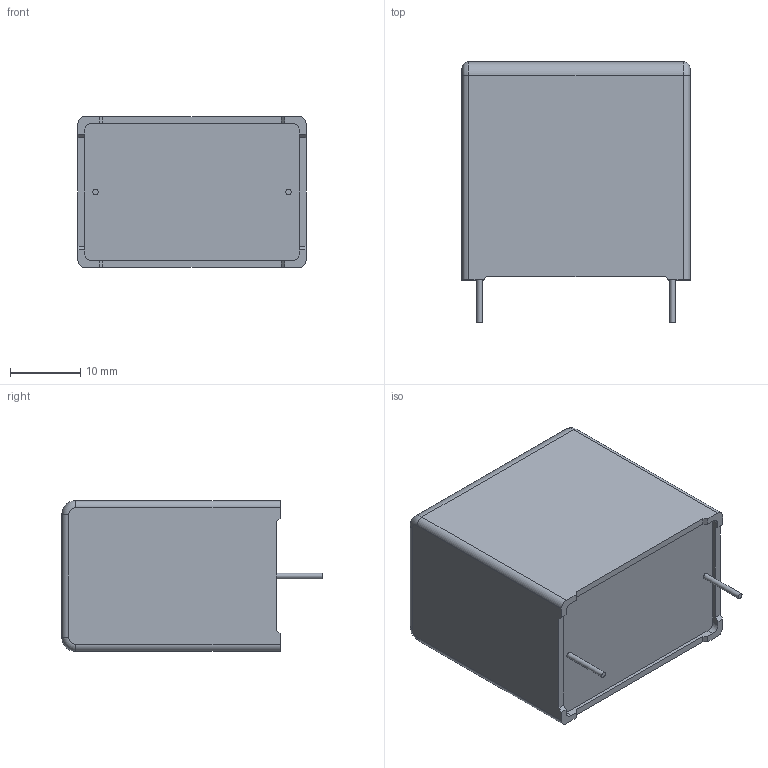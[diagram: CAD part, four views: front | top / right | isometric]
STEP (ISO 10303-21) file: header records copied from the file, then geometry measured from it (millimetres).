
FILE_DESCRIPTION (( 'STEP AP203' ), '1' );
FILE_NAME ('MKP1847H53035+K2.step', '2018-01-17T10:50:51', ( 'work' ), ( 'Hewlett-Packard Company' ), 'SwSTEP 2.0', 'SolidWorks 2017', '' );
FILE_SCHEMA (( 'CONFIG_CONTROL_DESIGN' ));
Length unit declared in the file: millimetre
Products named in the file (1): MKP1847H53035+K2
Bounding box: 32.5 x 37.1 x 21.5 mm (x, y, z)
Volume: 21008.6 mm3; surface area: 4676.9 mm2
Topology: 1 solids, 1 shells, 114 faces, 303 edges, 200 vertices
Faces by surface type: plane 80, bspline 16, cylinder 14, torus 4
Full cylindrical faces by diameter (mm): 0.8 x2
Entity records: 4252 total; most frequent: CARTESIAN_POINT 1436, ORIENTED_EDGE 598, DIRECTION 497, EDGE_CURVE 299, LINE 235, VECTOR 235, VERTEX_POINT 198, AXIS2_PLACEMENT_3D 131
